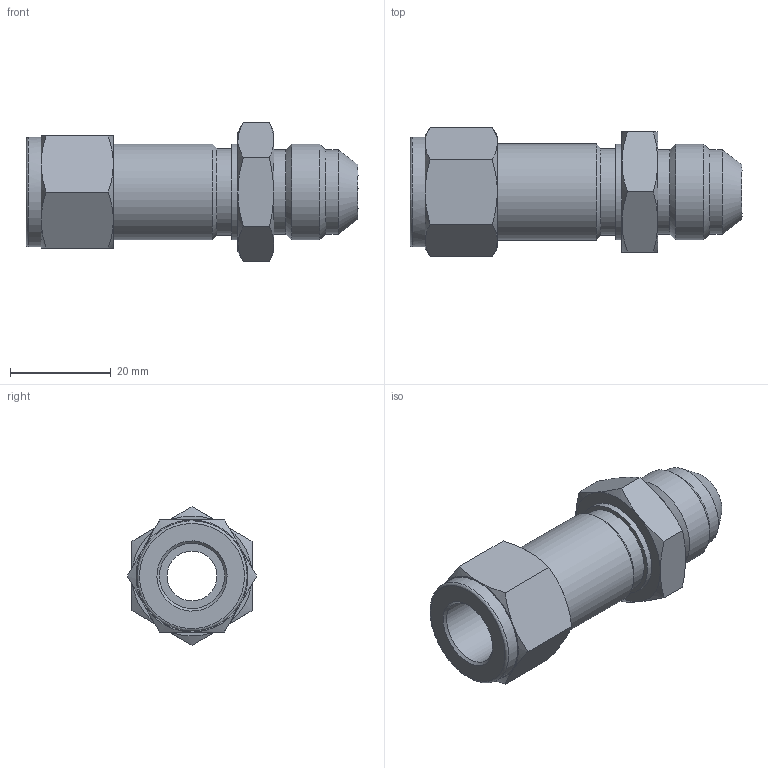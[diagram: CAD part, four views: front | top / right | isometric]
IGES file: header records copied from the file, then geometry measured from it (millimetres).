
Global section: file name: SABU-8-8U; native system: Autodesk Inventor 2016; preprocessor: unknown; author: DESIGNPC2; date: 20151229.190919; units: millimetre
Bounding box: 65.8 x 25.66 x 27.5 mm (x, y, z)
Volume: 15049.6 mm3; surface area: 7552.1 mm2
Topology: 1 solids, 1 shells, 50 faces, 128 edges, 87 vertices
Faces by surface type: bspline 50
